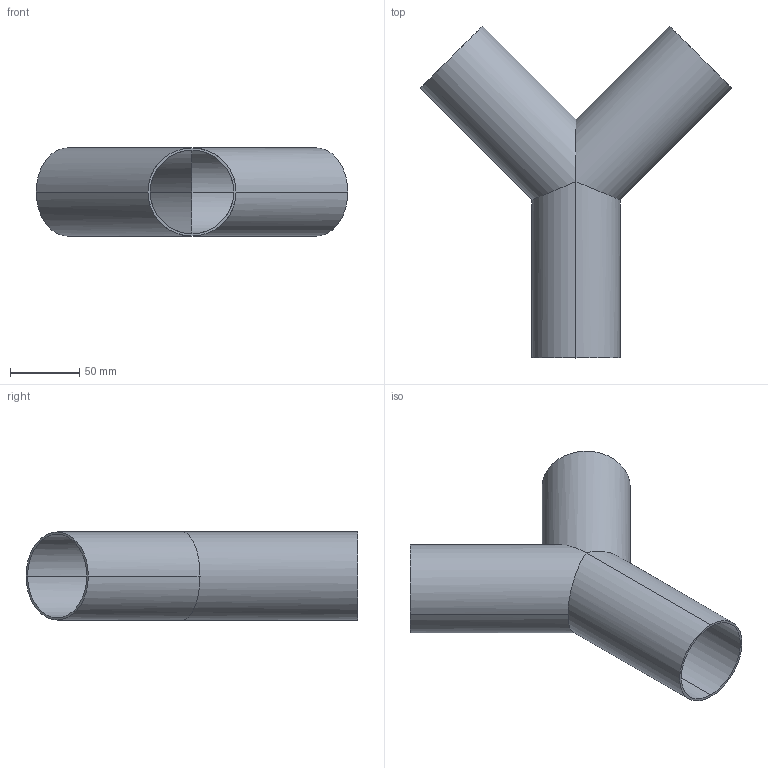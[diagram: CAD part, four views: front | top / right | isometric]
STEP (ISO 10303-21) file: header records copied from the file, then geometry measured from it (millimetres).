
FILE_DESCRIPTION (( 'STEP AP214' ), '1' );
FILE_NAME ('TE28WB6L2.5-...STEP', '2016-05-25T04:29:59', ( 'eran' ), ( '' ), 'SwSTEP 2.0', 'SolidWorks 2016', '' );
FILE_SCHEMA (( 'AUTOMOTIVE_DESIGN' ));
Length unit declared in the file: millimetre
Products named in the file (1): TE28WB6L2.5-..
Bounding box: 224.51 x 239.25 x 63.5 mm (x, y, z)
Volume: 110607.7 mm3; surface area: 135025.2 mm2
Topology: 1 solids, 1 shells, 15 faces, 36 edges, 22 vertices
Faces by surface type: cylinder 12, plane 3
Entity records: 476 total; most frequent: CARTESIAN_POINT 110, ORIENTED_EDGE 72, DIRECTION 68, EDGE_CURVE 36, AXIS2_PLACEMENT_3D 28, VERTEX_POINT 22, EDGE_LOOP 18, FACE_OUTER_BOUND 15
